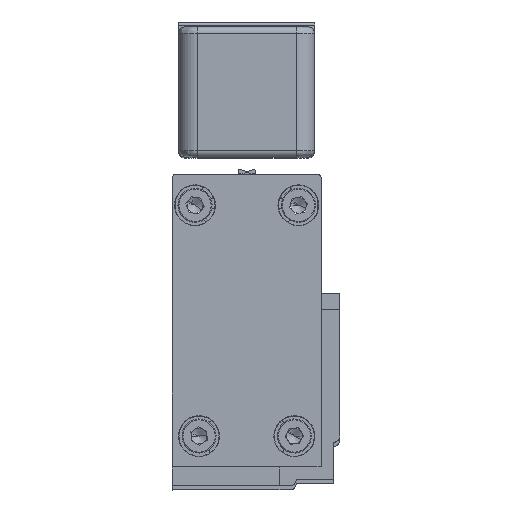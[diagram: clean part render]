
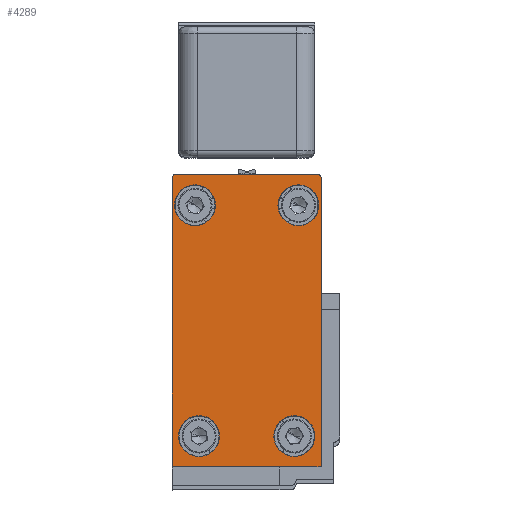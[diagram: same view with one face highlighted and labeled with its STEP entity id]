
A CAD part, top view. The second image highlights one B-rep face of the part: STEP entity #4289.
In plain terms, the highlighted planar face has unit normal (0, 0, 1).
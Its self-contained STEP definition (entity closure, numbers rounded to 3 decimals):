
#417 = EDGE_CURVE ( 'NONE', #3888, #2993, #14616, .T. ) ;
#586 = EDGE_CURVE ( 'NONE', #31029, #31836, #7753, .T. ) ;
#678 = CIRCLE ( 'NONE', #2203, 3.302 ) ;
#1051 = DIRECTION ( 'NONE',  ( 0., 1., 0. ) ) ;
#1240 = CARTESIAN_POINT ( 'NONE',  ( 5.984, 7.11, 3185. ) ) ;
#1285 = CARTESIAN_POINT ( 'NONE',  ( 5.485, 25.871, 3185. ) ) ;
#1811 = DIRECTION ( 'NONE',  ( -1., 0., 0. ) ) ;
#2044 = CARTESIAN_POINT ( 'NONE',  ( 5.984, 7.11, 3185. ) ) ;
#2132 = CARTESIAN_POINT ( 'NONE',  ( -0.967, 21.401, 3185. ) ) ;
#2203 = AXIS2_PLACEMENT_3D ( 'NONE', #19852, #3196, #22628 ) ;
#2267 = CARTESIAN_POINT ( 'NONE',  ( -18.014, -20.888, 3185. ) ) ;
#2366 = CARTESIAN_POINT ( 'NONE',  ( 5.984, -20.888, 3185. ) ) ;
#2508 = AXIS2_PLACEMENT_3D ( 'NONE', #3693, #23100, #6541 ) ;
#2753 = DIRECTION ( 'NONE',  ( -1., 0., 0. ) ) ;
#2993 = VERTEX_POINT ( 'NONE', #2044 ) ;
#3004 = EDGE_LOOP ( 'NONE', ( #33830, #17807 ) ) ;
#3007 = CARTESIAN_POINT ( 'NONE',  ( -18.014, 25.871, 3185. ) ) ;
#3196 = DIRECTION ( 'NONE',  ( 0., 0., -1. ) ) ;
#3328 = EDGE_CURVE ( 'NONE', #8261, #27610, #8461, .T. ) ;
#3693 = CARTESIAN_POINT ( 'NONE',  ( 1.676, -15.887, 3185. ) ) ;
#3847 = CARTESIAN_POINT ( 'NONE',  ( -14.365, 21.401, 3185. ) ) ;
#3888 = VERTEX_POINT ( 'NONE', #2366 ) ;
#3999 = AXIS2_PLACEMENT_3D ( 'NONE', #35845, #19438, #2753 ) ;
#4013 = DIRECTION ( 'NONE',  ( 0., 0., -1. ) ) ;
#4081 = VERTEX_POINT ( 'NONE', #20006 ) ;
#4082 = DIRECTION ( 'NONE',  ( 0., 1., 0. ) ) ;
#4118 = DIRECTION ( 'NONE',  ( 0., 1., 0. ) ) ;
#4289 = ADVANCED_FACE ( 'NONE', ( #22574, #29015, #15325, #21726, #14443 ), #16556, .T. ) ;
#4359 = DIRECTION ( 'NONE',  ( 0., 0., -1. ) ) ;
#4540 = CARTESIAN_POINT ( 'NONE',  ( -18.014, -20.888, 3185. ) ) ;
#4595 = EDGE_CURVE ( 'NONE', #18590, #26886, #33668, .T. ) ;
#4696 = CARTESIAN_POINT ( 'NONE',  ( -18.014, 25.871, 3185. ) ) ;
#4820 = EDGE_CURVE ( 'NONE', #19954, #7938, #17794, .T. ) ;
#5426 = DIRECTION ( 'NONE',  ( -1., 0., 0. ) ) ;
#5462 = DIRECTION ( 'NONE',  ( 0., 0., -1. ) ) ;
#5470 = CARTESIAN_POINT ( 'NONE',  ( -13.714, -15.887, 3185. ) ) ;
#6413 = CIRCLE ( 'NONE', #8489, 3.302 ) ;
#6541 = DIRECTION ( 'NONE',  ( -1., 0., 0. ) ) ;
#6693 = DIRECTION ( 'NONE',  ( -1., 0., 0. ) ) ;
#6823 = CARTESIAN_POINT ( 'NONE',  ( -17.017, -15.887, 3185. ) ) ;
#7109 = ORIENTED_EDGE ( 'NONE', *, *, #30919, .T. ) ;
#7202 = AXIS2_PLACEMENT_3D ( 'NONE', #12131, #31265, #14887 ) ;
#7384 = EDGE_CURVE ( 'NONE', #17079, #34173, #21649, .T. ) ;
#7489 = ORIENTED_EDGE ( 'NONE', *, *, #25736, .T. ) ;
#7553 = DIRECTION ( 'NONE',  ( 0., -1., 0. ) ) ;
#7753 = CIRCLE ( 'NONE', #22192, 3.302 ) ;
#7938 = VERTEX_POINT ( 'NONE', #14318 ) ;
#8261 = VERTEX_POINT ( 'NONE', #32149 ) ;
#8461 = CIRCLE ( 'NONE', #2508, 3.302 ) ;
#8489 = AXIS2_PLACEMENT_3D ( 'NONE', #3847, #23244, #6693 ) ;
#8585 = AXIS2_PLACEMENT_3D ( 'NONE', #34914, #18513, #1811 ) ;
#8681 = DIRECTION ( 'NONE',  ( 0., 1., 0. ) ) ;
#9251 = CARTESIAN_POINT ( 'NONE',  ( 5.984, 25.871, 3185. ) ) ;
#9475 = CARTESIAN_POINT ( 'NONE',  ( 5.984, -20.888, 3185. ) ) ;
#9840 = CIRCLE ( 'NONE', #7202, 3.302 ) ;
#11092 = LINE ( 'NONE', #1240, #17491 ) ;
#11387 = ORIENTED_EDGE ( 'NONE', *, *, #4820, .F. ) ;
#11435 = EDGE_LOOP ( 'NONE', ( #31022, #12981, #20120, #12758, #11387, #33877, #7489 ) ) ;
#12057 = AXIS2_PLACEMENT_3D ( 'NONE', #34176, #17744, #1051 ) ;
#12131 = CARTESIAN_POINT ( 'NONE',  ( -13.714, -15.887, 3185. ) ) ;
#12243 = CARTESIAN_POINT ( 'NONE',  ( 5.637, 21.401, 3185. ) ) ;
#12555 = CARTESIAN_POINT ( 'NONE',  ( -11.063, 21.401, 3185. ) ) ;
#12758 = ORIENTED_EDGE ( 'NONE', *, *, #26772, .T. ) ;
#12981 = ORIENTED_EDGE ( 'NONE', *, *, #23747, .T. ) ;
#13222 = EDGE_CURVE ( 'NONE', #27610, #8261, #15189, .T. ) ;
#13371 = EDGE_CURVE ( 'NONE', #14811, #4081, #678, .T. ) ;
#13655 = CARTESIAN_POINT ( 'NONE',  ( 5.485, 26.371, 3185. ) ) ;
#14318 = CARTESIAN_POINT ( 'NONE',  ( -17.514, 26.371, 3185. ) ) ;
#14443 = FACE_OUTER_BOUND ( 'NONE', #11435, .T. ) ;
#14616 = LINE ( 'NONE', #9475, #21892 ) ;
#14811 = VERTEX_POINT ( 'NONE', #12555 ) ;
#14887 = DIRECTION ( 'NONE',  ( -1., 0., 0. ) ) ;
#15189 = CIRCLE ( 'NONE', #8585, 3.302 ) ;
#15325 = FACE_BOUND ( 'NONE', #22555, .T. ) ;
#16547 = ORIENTED_EDGE ( 'NONE', *, *, #13222, .T. ) ;
#16556 = PLANE ( 'NONE',  #3999 ) ;
#17079 = VERTEX_POINT ( 'NONE', #9251 ) ;
#17225 = VECTOR ( 'NONE', #7553, 1000. ) ;
#17491 = VECTOR ( 'NONE', #4082, 1000. ) ;
#17744 = DIRECTION ( 'NONE',  ( 0., 0., -1. ) ) ;
#17794 = CIRCLE ( 'NONE', #12057, 0.5 ) ;
#17807 = ORIENTED_EDGE ( 'NONE', *, *, #4595, .T. ) ;
#18513 = DIRECTION ( 'NONE',  ( 0., 0., -1. ) ) ;
#18574 = EDGE_CURVE ( 'NONE', #4081, #14811, #6413, .T. ) ;
#18590 = VERTEX_POINT ( 'NONE', #12243 ) ;
#18812 = EDGE_CURVE ( 'NONE', #19954, #19548, #24546, .T. ) ;
#19438 = DIRECTION ( 'NONE',  ( 0., 0., 1. ) ) ;
#19548 = VERTEX_POINT ( 'NONE', #4540 ) ;
#19649 = DIRECTION ( 'NONE',  ( -1., 0., 0. ) ) ;
#19852 = CARTESIAN_POINT ( 'NONE',  ( -14.365, 21.401, 3185. ) ) ;
#19954 = VERTEX_POINT ( 'NONE', #3007 ) ;
#20006 = CARTESIAN_POINT ( 'NONE',  ( -17.667, 21.401, 3185. ) ) ;
#20120 = ORIENTED_EDGE ( 'NONE', *, *, #7384, .T. ) ;
#20630 = CARTESIAN_POINT ( 'NONE',  ( 2.335, 21.401, 3185. ) ) ;
#20742 = DIRECTION ( 'NONE',  ( 0., 0., 1. ) ) ;
#20983 = CARTESIAN_POINT ( 'NONE',  ( 2.335, 21.401, 3185. ) ) ;
#21649 = CIRCLE ( 'NONE', #26551, 0.5 ) ;
#21726 = FACE_BOUND ( 'NONE', #24286, .T. ) ;
#21885 = AXIS2_PLACEMENT_3D ( 'NONE', #20630, #4013, #23396 ) ;
#21892 = VECTOR ( 'NONE', #8681, 1000. ) ;
#22192 = AXIS2_PLACEMENT_3D ( 'NONE', #5470, #5462, #5426 ) ;
#22555 = EDGE_LOOP ( 'NONE', ( #16547, #26376 ) ) ;
#22574 = FACE_BOUND ( 'NONE', #31535, .T. ) ;
#22628 = DIRECTION ( 'NONE',  ( -1., 0., 0. ) ) ;
#23100 = DIRECTION ( 'NONE',  ( 0., 0., -1. ) ) ;
#23244 = DIRECTION ( 'NONE',  ( 0., 0., -1. ) ) ;
#23396 = DIRECTION ( 'NONE',  ( -1., 0., 0. ) ) ;
#23664 = AXIS2_PLACEMENT_3D ( 'NONE', #20983, #4359, #23716 ) ;
#23716 = DIRECTION ( 'NONE',  ( -1., 0., 0. ) ) ;
#23747 = EDGE_CURVE ( 'NONE', #2993, #17079, #11092, .T. ) ;
#23934 = LINE ( 'NONE', #32710, #31223 ) ;
#24286 = EDGE_LOOP ( 'NONE', ( #30079, #7109 ) ) ;
#24468 = DIRECTION ( 'NONE',  ( 1., 0., 0. ) ) ;
#24546 = LINE ( 'NONE', #4696, #17225 ) ;
#24920 = LINE ( 'NONE', #2267, #28802 ) ;
#25736 = EDGE_CURVE ( 'NONE', #19548, #3888, #24920, .T. ) ;
#26151 = EDGE_CURVE ( 'NONE', #26886, #18590, #31294, .T. ) ;
#26376 = ORIENTED_EDGE ( 'NONE', *, *, #3328, .T. ) ;
#26551 = AXIS2_PLACEMENT_3D ( 'NONE', #1285, #20742, #4118 ) ;
#26772 = EDGE_CURVE ( 'NONE', #34173, #7938, #23934, .T. ) ;
#26886 = VERTEX_POINT ( 'NONE', #2132 ) ;
#27610 = VERTEX_POINT ( 'NONE', #30021 ) ;
#28802 = VECTOR ( 'NONE', #24468, 1000. ) ;
#29015 = FACE_BOUND ( 'NONE', #3004, .T. ) ;
#30021 = CARTESIAN_POINT ( 'NONE',  ( -1.626, -15.887, 3185. ) ) ;
#30079 = ORIENTED_EDGE ( 'NONE', *, *, #586, .T. ) ;
#30919 = EDGE_CURVE ( 'NONE', #31836, #31029, #9840, .T. ) ;
#31022 = ORIENTED_EDGE ( 'NONE', *, *, #417, .T. ) ;
#31029 = VERTEX_POINT ( 'NONE', #6823 ) ;
#31223 = VECTOR ( 'NONE', #19649, 1000. ) ;
#31265 = DIRECTION ( 'NONE',  ( 0., 0., -1. ) ) ;
#31294 = CIRCLE ( 'NONE', #23664, 3.302 ) ;
#31535 = EDGE_LOOP ( 'NONE', ( #35116, #33731 ) ) ;
#31836 = VERTEX_POINT ( 'NONE', #34805 ) ;
#32149 = CARTESIAN_POINT ( 'NONE',  ( 4.978, -15.887, 3185. ) ) ;
#32710 = CARTESIAN_POINT ( 'NONE',  ( 5.485, 26.371, 3185. ) ) ;
#33668 = CIRCLE ( 'NONE', #21885, 3.302 ) ;
#33731 = ORIENTED_EDGE ( 'NONE', *, *, #13371, .T. ) ;
#33830 = ORIENTED_EDGE ( 'NONE', *, *, #26151, .T. ) ;
#33877 = ORIENTED_EDGE ( 'NONE', *, *, #18812, .T. ) ;
#34173 = VERTEX_POINT ( 'NONE', #13655 ) ;
#34176 = CARTESIAN_POINT ( 'NONE',  ( -17.514, 25.871, 3185. ) ) ;
#34805 = CARTESIAN_POINT ( 'NONE',  ( -10.412, -15.887, 3185. ) ) ;
#34914 = CARTESIAN_POINT ( 'NONE',  ( 1.676, -15.887, 3185. ) ) ;
#35116 = ORIENTED_EDGE ( 'NONE', *, *, #18574, .T. ) ;
#35845 = CARTESIAN_POINT ( 'NONE',  ( -18.014, -20.888, 3185. ) ) ;
